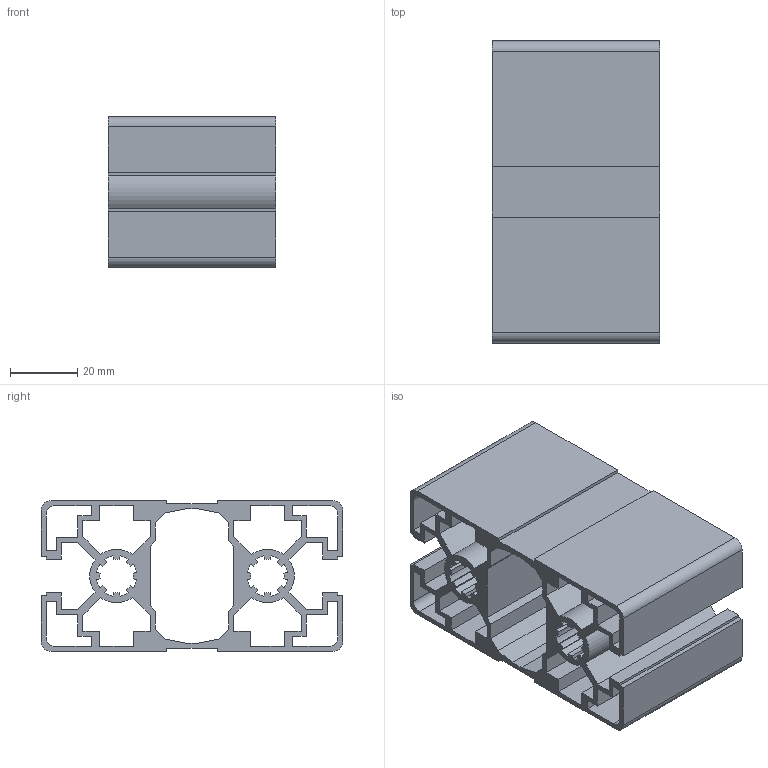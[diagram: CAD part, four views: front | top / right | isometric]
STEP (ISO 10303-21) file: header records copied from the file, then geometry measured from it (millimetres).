
FILE_DESCRIPTION(('no description'),'unknown implementation level');
FILE_NAME('3842993644_132131420.stp',' ',('Bosch Rexroth AG'),('CADClick - KiM GmbH - www.kimweb.de'),'unknown preprocess','ACIS','unknown authorization');
FILE_SCHEMA(('automotive_design'));
Length unit declared in the file: millimetre
Products named in the file (1): 1
Bounding box: 50 x 90 x 45 mm (x, y, z)
Volume: 59072.7 mm3; surface area: 54880.5 mm2
Topology: 1 solids, 1 shells, 206 faces, 612 edges, 408 vertices
Faces by surface type: plane 160, cylinder 46
Entity records: 13664 total; most frequent: STYLED_ITEM 1227, PRESENTATION_STYLE_ASSIGNMENT 1227, CARTESIAN_POINT 1227, COLOUR_RGB 1227, ORIENTED_EDGE 1224, DIRECTION 1118, EDGE_CURVE 612, CURVE_STYLE 612
